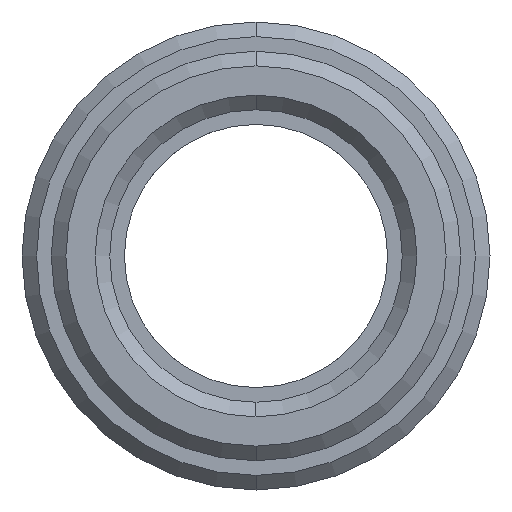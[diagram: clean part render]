
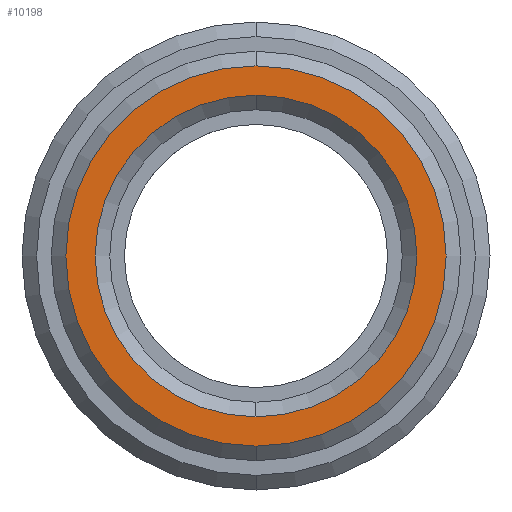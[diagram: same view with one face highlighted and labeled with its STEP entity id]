
A CAD part, left-side view. The second image highlights one B-rep face of the part: STEP entity #10198.
In plain terms, the highlighted planar face has unit normal (-1, 0, 0).
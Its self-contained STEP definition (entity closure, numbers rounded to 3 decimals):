
#3954=CARTESIAN_POINT('',(-5.,0.,0.));
#3955=DIRECTION('',(1.,0.,0.));
#3956=DIRECTION('',(0.,0.,1.));
#3957=AXIS2_PLACEMENT_3D('',#3954,#3955,#3956);
#3959=CARTESIAN_POINT('',(-5.,0.,0.));
#3960=DIRECTION('',(1.,0.,0.));
#3961=DIRECTION('',(0.,0.,-1.));
#3962=AXIS2_PLACEMENT_3D('',#3959,#3960,#3961);
#3964=CARTESIAN_POINT('',(-5.,0.,0.));
#3965=DIRECTION('',(1.,0.,0.));
#3966=DIRECTION('',(0.,0.,1.));
#3967=AXIS2_PLACEMENT_3D('',#3964,#3965,#3966);
#3969=CARTESIAN_POINT('',(-5.,0.,0.));
#3970=DIRECTION('',(1.,0.,0.));
#3971=DIRECTION('',(0.,0.,-1.));
#3972=AXIS2_PLACEMENT_3D('',#3969,#3970,#3971);
#8494=CARTESIAN_POINT('',(-5.,0.,6.5));
#8495=CARTESIAN_POINT('',(-5.,0.,-6.5));
#8496=VERTEX_POINT('',#8494);
#8497=VERTEX_POINT('',#8495);
#8498=CARTESIAN_POINT('',(-5.,0.,5.5));
#8499=CARTESIAN_POINT('',(-5.,0.,-5.5));
#8500=VERTEX_POINT('',#8498);
#8501=VERTEX_POINT('',#8499);
#10182=CARTESIAN_POINT('',(-5.,0.,0.));
#10183=DIRECTION('',(1.,0.,0.));
#10184=DIRECTION('',(0.,0.,1.));
#10185=AXIS2_PLACEMENT_3D('',#10182,#10183,#10184);
#10186=PLANE('',#10185);
#10188=ORIENTED_EDGE('',*,*,#10187,.T.);
#10190=ORIENTED_EDGE('',*,*,#10189,.T.);
#10191=EDGE_LOOP('',(#10188,#10190));
#10192=FACE_OUTER_BOUND('',#10191,.F.);
#10193=ORIENTED_EDGE('',*,*,#10172,.F.);
#10195=ORIENTED_EDGE('',*,*,#10194,.F.);
#10196=EDGE_LOOP('',(#10193,#10195));
#10197=FACE_BOUND('',#10196,.F.);
#10198=ADVANCED_FACE('',(#10192,#10197),#10186,.F.);
#3958=CIRCLE('',#3957,6.5);
#3963=CIRCLE('',#3962,6.5);
#3968=CIRCLE('',#3967,5.5);
#3973=CIRCLE('',#3972,5.5);
#10172=EDGE_CURVE('',#8500,#8501,#3968,.T.);
#10187=EDGE_CURVE('',#8496,#8497,#3958,.T.);
#10189=EDGE_CURVE('',#8497,#8496,#3963,.T.);
#10194=EDGE_CURVE('',#8501,#8500,#3973,.T.);
